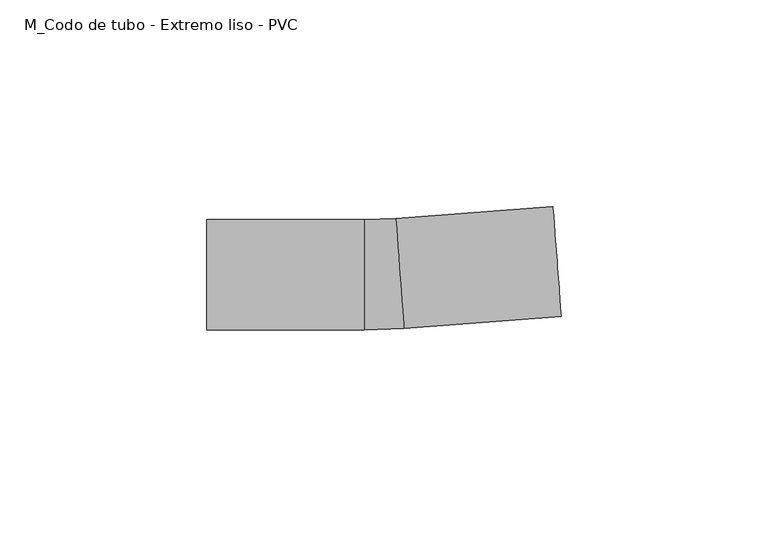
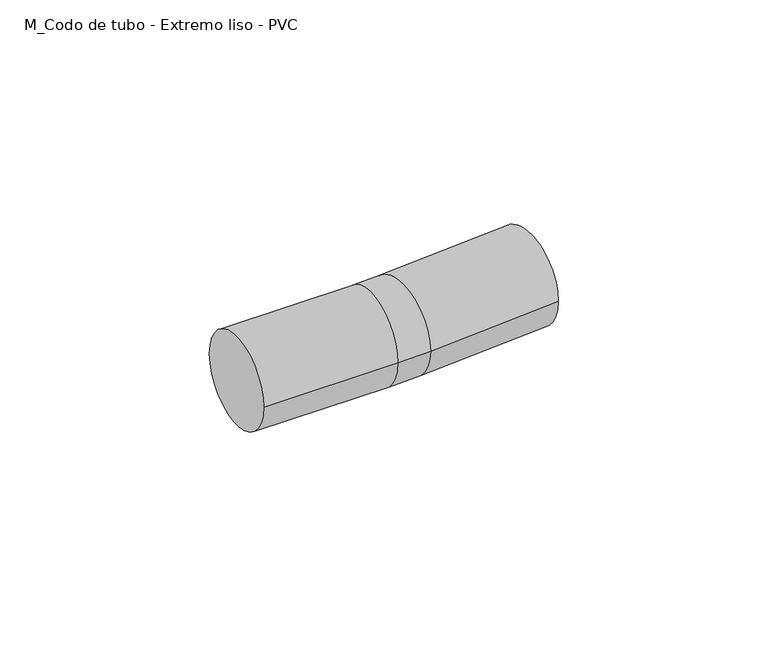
"""IFC4 building model written with IfcOpenShell, lengths in millimetres: cable carrier fitting geometry, M_Codo de tubo - Extremo liso - PVC : CODO ILUMINACION."""

from ifc_helpers import new_model, si_unit, point, frame, origin, place, context, project, spatial, circle_curve, ellipse_curve, trimmed, source, transform, mapped, element, save
from ifc_brep_helpers import plane_surface, cylinder_surface, revolved_surface, advanced_brep


def m_codo_de_tubo_extremo_liso_pvc_01dea03c(model_context):
    return source(origin(), model_context, "Body", "AdvancedBrep", [
        advanced_brep(
        [(-42.3854984, -13.335, 0.0), (-42.3854984, 13.335, 0.0), (-4.2854984, -13.335, 0.0), (-4.2854984, 13.335, 0.0), (3.2749206, 13.618466, 0.0), (5.2720124, -12.9766562, 0.0), (43.2650441, -10.1236679, 0.0), (41.2679523, 16.4714543, 0.0)],
        [
            (0, 1, circle_curve(frame((-42.3854984, 0.0, 0.0), z_axis=(-1.0, 0.0, 0.0), x_axis=(0.0, 1.0, 0.0)), 13.335)),
            (1, 0, circle_curve(frame((-42.3854984, 0.0, 0.0), z_axis=(-1.0, 0.0, 0.0), x_axis=(0.0, 1.0, 0.0)), 13.335)),
            (0, 2),
            (2, 3, circle_curve(frame((-4.2854984, 0.0, 0.0), z_axis=(-1.0, 0.0, 0.0), x_axis=(0.0, 1.0, 0.0)), 13.335)),
            (3, 1),
            (3, 2, circle_curve(frame((-4.2854984, 0.0, 0.0), z_axis=(-1.0, 0.0, 0.0), x_axis=(0.0, 1.0, 0.0)), 13.335)),
            (4, 3, circle_curve(frame((-4.2854984, 114.3, 0.0), z_axis=(0.0, 0.0, -1.0), x_axis=(0.0, -1.0, 0.0)), 100.965)),
            (2, 5, circle_curve(frame((-4.2854984, 114.3, 0.0), z_axis=(0.0, 0.0, 1.0), x_axis=(0.0, -1.0, 0.0)), 127.635)),
            (5, 4, circle_curve(frame((4.2734665, 0.3209049, 0.0), z_axis=(-0.9971924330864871, -0.07488158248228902, 0.0), x_axis=(-0.07488158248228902, 0.9971924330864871, 0.0)), 13.335)),
            (4, 5, circle_curve(frame((4.2734665, 0.3209049, 0.0), z_axis=(-0.9971924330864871, -0.07488158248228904, 0.0), x_axis=(-0.07488158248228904, 0.9971924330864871, 0.0)), 13.335)),
            (6, 7, circle_curve(frame((42.2664982, 3.1738932, 0.0), z_axis=(0.9971924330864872, 0.07488158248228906, 0.0), x_axis=(-0.07488158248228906, 0.9971924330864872, 0.0)), 13.335)),
            (7, 6, circle_curve(frame((42.2664982, 3.1738932, 0.0), z_axis=(0.9971924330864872, 0.07488158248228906, 0.0), x_axis=(-0.07488158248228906, 0.9971924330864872, 0.0)), 13.335)),
            (5, 6),
            (7, 4),
        ],
        [
            plane_surface(frame((-42.3854984, 0.0, 0.0), z_axis=(-1.0, 0.0, 0.0), x_axis=(0.0, 0.0, 1.0))),
            cylinder_surface(frame((-42.3854984, 0.0, 0.0), z_axis=(-1.0, 0.0, 0.0), x_axis=(0.0, 1.0, 0.0)), 13.335),
            revolved_surface(trimmed(ellipse_curve(frame((-4.2854984, 0.0, 0.0), z_axis=(-1.0, 0.0, 0.0), x_axis=(0.0, 1.0, 0.0)), 13.335, 13.335), [point((-4.2854984, -13.335, 0.0))], [point((-4.2854984, 13.335, 0.0))], True, "CARTESIAN"), (-4.2854984, 114.3, 0.0), (0.0, 0.0, 1.0)),
            revolved_surface(trimmed(ellipse_curve(frame((-4.2854984, 0.0, 0.0), z_axis=(-1.0, 0.0, 0.0), x_axis=(0.0, 1.0, 0.0)), 13.335, 13.335), [point((-4.2854984, 13.335, 0.0))], [point((-4.2854984, -13.335, 0.0))], True, "CARTESIAN"), (-4.2854984, 114.3, 0.0), (0.0, 0.0, 1.0)),
            plane_surface(frame((42.2664982, 3.1738932, 0.0), z_axis=(0.9971924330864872, 0.07488158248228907, 0.0), x_axis=(0.0, 0.0, 1.0))),
            cylinder_surface(frame((4.2734665, 0.3209049, 0.0), z_axis=(-0.9971924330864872, -0.07488158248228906, 0.0), x_axis=(-0.07488158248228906, 0.9971924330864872, 0.0)), 13.335),
        ],
        [
            (0, [[1, 2]]),
            (1, [[-1, 3, 4, 5]]),
            (1, [[-2, -5, 6, -3]]),
            (2, [[7, -4, 8, 9]]),
            (3, [[-8, -6, -7, 10]]),
            (4, [[11, 12]]),
            (5, [[-9, 13, -12, 14]]),
            (5, [[-10, -14, -11, -13]]),
        ],
    ),
    ])


if __name__ == "__main__":
    model = new_model("IFC4")
    model_context = context("Model", 3, world=origin())
    ifc_project = project(units=[si_unit("LENGTHUNIT", "METRE", prefix="MILLI")], contexts=[model_context])
    site = spatial("IfcSite", under=ifc_project)
    building = spatial("IfcBuilding", under=site)
    placement = place(None, origin())
    m_codo_de_tubo_extremo_liso_pvc_shape = m_codo_de_tubo_extremo_liso_pvc_01dea03c(model_context)
    element("IfcCableCarrierFitting", 1, ObjectType="M_Codo de tubo - Extremo liso - PVC : CODO ILUMINACION", at=placement, inside=building, context=model_context, shape_type="MappedRepresentation", body=[
        mapped(m_codo_de_tubo_extremo_liso_pvc_shape, transform((0.0, 0.0, 0.0), x_axis=(1.0, 0.0, 0.0), y_axis=(0.0, 1.0, 0.0), z_axis=(0.0, 0.0, 1.0))),
    ])
    save(model, "model.ifc")
